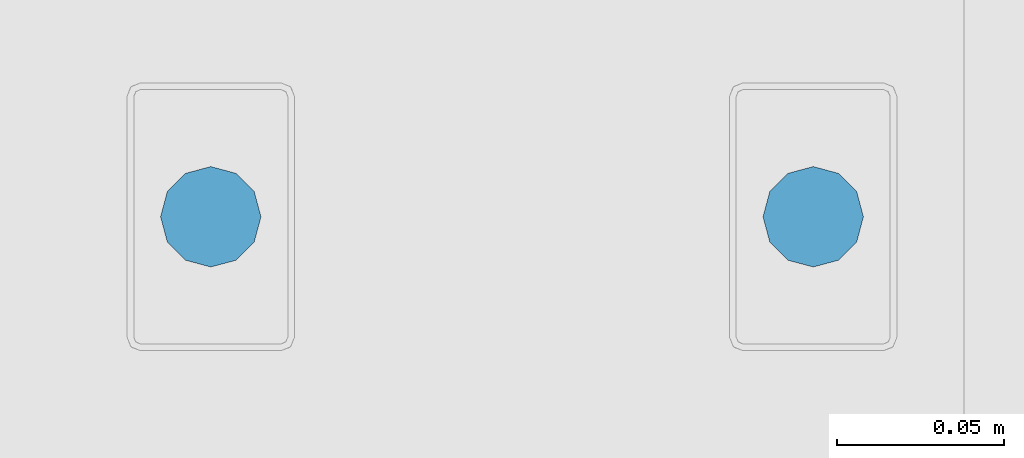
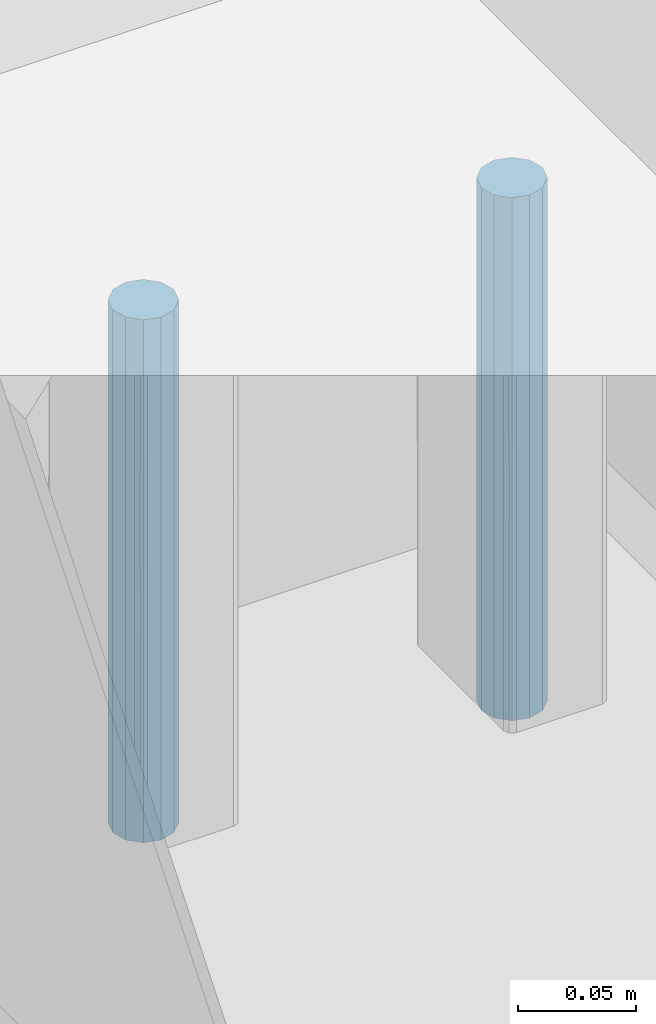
# One storey, part 203 of 230: 2 beams.
"""IFC4X3_ADD2 building model written with IfcOpenShell, lengths in millimetres."""

from ifc_helpers import new_model, si_unit, direction, origin_with_axes, place, context, subcontext, project, spatial, polygons, element, save


model = new_model("IFC4X3_ADD2")

# Units and contexts
model_context = context("Model", 3, precision=1e-05, world=origin_with_axes(), true_north=direction((0.0, 1.0)))
body_context = subcontext(model_context, "Body", "Model", "MODEL_VIEW")
ifc_project = project(units=[si_unit("LENGTHUNIT", "METRE", prefix="MILLI"), si_unit("AREAUNIT", "SQUARE_METRE"), si_unit("VOLUMEUNIT", "CUBIC_METRE"), si_unit("PLANEANGLEUNIT", "RADIAN"), si_unit("TIMEUNIT", "SECOND"), si_unit("MASSUNIT", "GRAM")], contexts=[model_context])

# Site, building, storey
site_placement = place(None, origin_with_axes())
site = spatial("IfcSite", under=ifc_project, at=site_placement, Name="Site", CompositionType="ELEMENT")
building_placement = place(site_placement, origin_with_axes())
building = spatial("IfcBuilding", under=site, at=building_placement, Name="IFC Building Story")
storey_placement = place(building_placement, origin_with_axes())
storey = spatial("IfcBuildingStorey", under=building, at=storey_placement, Name="ETAGE 00 (0)", Elevation=0.0)

# Beams
beam_1_placement = place(storey_placement, origin_with_axes())
element("IfcBeam", 1, at=beam_1_placement, inside=storey, Name="SD11", ObjectType="D30", context=body_context, shape_type="Tessellation", body=[
    polygons([(33476.1883991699, 21299.9996109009, 3960.0), (33476.1883991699, 21299.9996109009, 3690.0), (33478.19801811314, 21292.4996109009, 3690.0), (33478.19801811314, 21292.4996109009, 3960.0), (33483.68839916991, 21287.00922984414, 3690.0), (33483.68839916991, 21287.00922984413, 3960.0), (33491.1883991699, 21284.9996109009, 3690.0), (33491.1883991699, 21284.9996109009, 3960.0), (33498.68839916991, 21287.00922984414, 3690.0), (33498.68839916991, 21287.00922984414, 3960.0), (33504.17878022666, 21292.4996109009, 3690.0), (33504.17878022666, 21292.4996109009, 3960.0), (33506.1883991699, 21299.9996109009, 3690.0), (33506.1883991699, 21299.9996109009, 3960.0), (33504.17878022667, 21307.4996109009, 3690.0), (33504.17878022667, 21307.4996109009, 3960.0), (33498.68839916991, 21312.98999195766, 3690.0), (33498.6883991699, 21312.98999195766, 3960.0), (33491.1883991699, 21314.9996109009, 3690.0), (33491.1883991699, 21314.9996109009, 3960.0), (33483.68839916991, 21312.98999195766, 3690.0), (33483.68839916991, 21312.98999195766, 3960.0), (33478.19801811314, 21307.49961090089, 3690.0), (33478.19801811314, 21307.4996109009, 3960.0)], [[[1, 2, 3, 4]], [[4, 3, 5, 6]], [[6, 5, 7, 8]], [[8, 7, 9, 10]], [[10, 9, 11, 12]], [[12, 11, 13, 14]], [[14, 13, 15, 16]], [[16, 15, 17, 18]], [[18, 17, 19, 20]], [[20, 19, 21, 22]], [[22, 21, 23, 24]], [[24, 23, 2, 1]], [[4, 6, 8]], [[4, 8, 10]], [[4, 10, 12]], [[4, 12, 14]], [[4, 14, 16]], [[4, 16, 18]], [[4, 18, 20]], [[4, 20, 22]], [[4, 22, 24]], [[4, 24, 1]], [[2, 23, 21]], [[2, 21, 19]], [[2, 19, 17]], [[2, 17, 15]], [[2, 15, 13]], [[2, 13, 11]], [[2, 11, 9]], [[2, 9, 7]], [[2, 7, 5]], [[2, 5, 3]]]),
])
beam_2_placement = place(storey_placement, origin_with_axes())
element("IfcBeam", 2, at=beam_2_placement, inside=storey, Name="SD11", ObjectType="D30", context=body_context, shape_type="Tessellation", body=[
    polygons([(33296.1883991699, 21299.9996109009, 3960.0), (33296.1883991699, 21299.9996109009, 3690.0), (33298.19801811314, 21292.4996109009, 3690.0), (33298.19801811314, 21292.4996109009, 3960.0), (33303.68839916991, 21287.00922984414, 3690.0), (33303.68839916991, 21287.00922984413, 3960.0), (33311.1883991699, 21284.9996109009, 3690.0), (33311.1883991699, 21284.9996109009, 3960.0), (33318.6883991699, 21287.00922984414, 3690.0), (33318.6883991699, 21287.00922984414, 3960.0), (33324.17878022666, 21292.4996109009, 3690.0), (33324.17878022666, 21292.4996109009, 3960.0), (33326.1883991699, 21299.9996109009, 3690.0), (33326.1883991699, 21299.9996109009, 3960.0), (33324.17878022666, 21307.4996109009, 3690.0), (33324.17878022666, 21307.4996109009, 3960.0), (33318.6883991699, 21312.98999195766, 3690.0), (33318.6883991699, 21312.98999195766, 3960.0), (33311.1883991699, 21314.9996109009, 3690.0), (33311.1883991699, 21314.9996109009, 3960.0), (33303.68839916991, 21312.98999195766, 3690.0), (33303.68839916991, 21312.98999195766, 3960.0), (33298.19801811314, 21307.4996109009, 3690.0), (33298.19801811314, 21307.4996109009, 3960.0)], [[[1, 2, 3, 4]], [[4, 3, 5, 6]], [[6, 5, 7, 8]], [[8, 7, 9, 10]], [[10, 9, 11, 12]], [[12, 11, 13, 14]], [[14, 13, 15, 16]], [[16, 15, 17, 18]], [[18, 17, 19, 20]], [[20, 19, 21, 22]], [[22, 21, 23, 24]], [[24, 23, 2, 1]], [[4, 6, 8]], [[4, 8, 10]], [[4, 10, 12]], [[4, 12, 14]], [[4, 14, 16]], [[4, 16, 18]], [[4, 18, 20]], [[4, 20, 22]], [[4, 22, 24]], [[4, 24, 1]], [[2, 23, 21]], [[2, 21, 19]], [[2, 19, 17]], [[2, 17, 15]], [[2, 15, 13]], [[2, 13, 11]], [[2, 11, 9]], [[2, 9, 7]], [[2, 7, 5]], [[2, 5, 3]]]),
])

save(model, "model.ifc")
